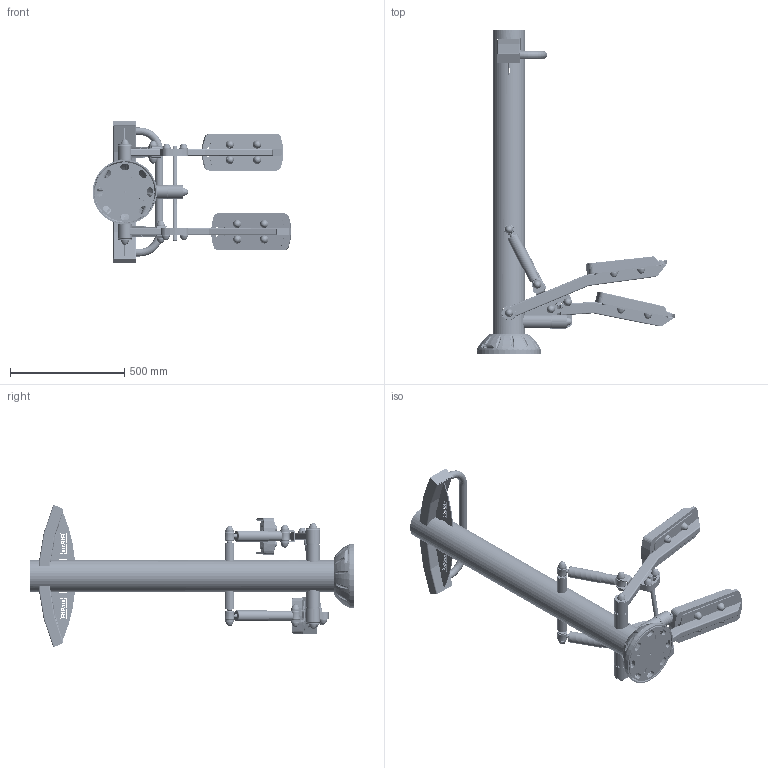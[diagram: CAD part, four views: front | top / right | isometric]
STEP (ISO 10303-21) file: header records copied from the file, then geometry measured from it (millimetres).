
FILE_DESCRIPTION (( 'STEP AP214' ), '1' );
FILE_NAME ('CT0112 - STEPPER SIMPLE ASS V1.3.STEP', '2016-10-03T21:03:44', ( '' ), ( '' ), 'SwSTEP 2.0', 'SolidWorks 2014', '' );
FILE_SCHEMA (( 'AUTOMOTIVE_DESIGN' ));
Length unit declared in the file: millimetre
Products named in the file (52): SCH1810 - Chapeau 66x26 pour tube 50x30 coupe à 45°; SR0416 - Rondelle plate petite M10 A2 ext 22mm; TROSM-42-285 - Tube D.42,4x2,9 L=285 V1.0; SBA1601 - Bague 6204 L60 V1.0; TREBRP-CT0112 - Tube bras respose pied Stepper V1.1; SR0427 - Rondelle plastique bouchon bague D60; SCH1806.A - Chapeau D135 V1.0; SA1448 - Axe Inox D.14mm L86,3mm V1.0; SC0304 - CACHE PLATINE ASS V4.0; TROCGUI-CT0112 - Tube guidon Stepper V1.0; SR0436 - Rondelle plate petite M10 A2 ext 36mm; SB0112 - Vis Torx teton central M8x20_M8x20; SRR0816 - Roulement  6204 47-20-14; SRP0206 - REPOSE PIED ASS V4.0_Capuchon Ｑ 5; SCH1807 - Chapeau 96x46 V1.0; SR0437 - Rondelle plate petite M14 A2 ext 36mm; SC0304 - Demi cache platine D140 V4.0; PU-TDRFIT219 - Tole renfort Fitpark L219 H106 V1.0; BATI-CT0112 - BATI STEPPER ASS V1.1; SC0306C - Petit capuchon en nylon 36 mm; PU-TRETRAV618 - Tube rectangulaire cintré R750 100x50x3 L618 V1.0_Trous D.33,7 non traversant 2; SAM2202 - Amortisseur stepper V2_Interm‚diaire; TOLGOUS110x40 - Gousset 110x40 廧.6 V1.0; SF1100 - Ecrou frein M8 A2; PU-TROCB1400SS - Colonne base D.139,7x3 Ht1400 Stepper Simple V1.0; SC0306B - Base pour capuchon en nylon 36mm; PLATINE BASE ASS V2.0; SAM2202 - Amortisseur stepper V2_Sorti; SA1418.A - Axe manivelle D.20 L134,4 V1.1; PU-TOLGOPL - Gousset platine V2.0; PATIN-C0601 - PATIN STEPPER V1.0; SR0404 - Rondelle plate Moyenne M8 A2; PU-TOLPLAT - Platine base V1.0; SR0426 - Rondelle plate petite M10 A2 ext 18mm; TROSM-60-130 - Tube D.60,3x2,9 L=130 V1.0; SRP0206 - Repose pied V3.1; BRASD-CT0112 - BRAS REPOSE PIED DROIT STEPPER ASS V1.6; CT0112 - STEPPER SIMPLE ASS V1.3; SB0115 - Vis Torx teton central M10x40; SA1427.A - Axe acier D.25 L420 V2.0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
Assembly tree (145 placements, depth 4):
  CT0112 - STEPPER SIMPLE ASS V1.3
    BATI-CT0112 - BATI STEPPER ASS V1.1
      PLATINE BASE ASS V2.0
        PU-TOLPLAT - Platine base V1.0
        PU-TOLGOPL - Gousset platine V2.0  x4
      PU-TROCB1400SS - Colonne base D.139,7x3 Ht1400 Stepper Simple V1.0
      PU-TRETRAV618 - Tube rectangulaire cintré R750 100x50x3 L618 V1.0_Trous D.33,7 non traversant 2
      PU-TDRFIT219 - Tole renfort Fitpark L219 H106 V1.0  x2
      SCH1807 - Chapeau 96x46 V1.0  x2
      TROCGUI-CT0112 - Tube guidon Stepper V1.0
      SCH1806.A - Chapeau D135 V1.0
      TROSM-42-285 - Tube D.42,4x2,9 L=285 V1.0
      TROSM-60-274 - Tube D.60,3x2,9 L=274 V1.0
      PU-TOLROND60-20 - Rondelle pour tube D.60 percée d.20 V1.0_V‚lo elliptique  x4
      PU-TOLROND42-20 - Rondelle pour tube D.42 percée d.20 V1.0_V‚lo elliptique  x2
      SA1426 - Axe acier D.25 L448 V1.0_V俵o elliptique
      SA1427.A - Axe acier D.25 L420 V2.0
      TROSM-60-130 - Tube D.60,3x2,9 L=130 V1.0
      SA1418.A - Axe manivelle D.20 L134,4 V1.1
      TOLGOUS110x40 - Gousset 110x40 廧.6 V1.0
    SC0304 - CACHE PLATINE ASS V4.0
      SC0304 - Demi cache platine D140 V4.0
      SB0112 - Vis Torx teton central M8x20_M8x20  x2
    BRASG-CT0112 - BRAS REPOSE PIED GAUCHE STEPPER ASS V1.6
      TREBRP-CT0112 - Tube bras respose pied Stepper V1.1
      SBA1601 - Bague 6204 L60 V1.0
      SCH1810 - Chapeau 66x26 pour tube 50x30 coupe à 45°
      PU-TROREPIED - Demi support repose pied  x2
      TOLSUPAT-CT0112 - Support patin Stepper V1.0
      SCHP2004 - Chape pliee 40 廧 5 V1.0
    BRASD-CT0112 - BRAS REPOSE PIED DROIT STEPPER ASS V1.6
      TREBRP-CT0112 - Tube bras respose pied Stepper V1.1
      SBA1601 - Bague 6204 L60 V1.0
      SCH1810 - Chapeau 66x26 pour tube 50x30 coupe à 45°
      PU-TROREPIED - Demi support repose pied  x2
      TOLSUPAT-CT0112 - Support patin Stepper V1.0
      SCHP2004 - Chape pliee 40 廧 5 V1.0
    SRP0206 - REPOSE PIED ASS V4.0_Capuchon Ｑ 5  x2
      SRP0206 - Repose pied V3.1
      SR0404 - Rondelle plate Moyenne M8 A2
      SC0306B - Base pour capuchon en nylon 36mm
      SF1100 - Ecrou frein M8 A2
      SC0306C - Petit capuchon en nylon 36 mm
    SRR0816 - Roulement  6204 47-20-14  x6
    SR0427 - Rondelle plastique bouchon bague D60  x6
    SC0306B - Base pour capuchon en nylon 36mm  x9
    SR0416 - Rondelle plate petite M10 A2 ext 22mm  x9
    SF1101 - Ecrou frein M10 A2  x9
    SC0306C - Petit capuchon en nylon 36 mm  x9
    BALAN-CT0112 - BALANCIER STEPPER ASS V1.0
      SA1428.B - Axe acier D.20 L420 V2.0
      SBA1601 - Bague 6204 L60 V1.0
    PATIN-C0601 - PATIN STEPPER V1.0  x2
      SRP0208 - Patin Stepper V2.0
      SB0115 - Vis Torx teton central M10x40
      SC0306B - Base pour capuchon en nylon 36mm
      SR0416 - Rondelle plate petite M10 A2 ext 22mm
      SF1101 - Ecrou frein M10 A2
      SC0306C - Petit capuchon en nylon 36 mm
      SR0426 - Rondelle plate petite M10 A2 ext 18mm
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Bounding box: 867.53 x 1418 x 621.97 mm (x, y, z)
Volume: 9560533.3 mm3; surface area: 4008001.7 mm2
Topology: 190 solids, 206 shells, 4207 faces, 9575 edges, 6083 vertices
Faces by surface type: plane 1619, cylinder 891, cone 621, bspline 616, torus 370, sphere 90
Full cylindrical faces by diameter (mm): 1.8 x2, 2.64 x4, 5 x8, 6.647 x18, 6.95 x2, 8 x18, 8.2 x8, 8.3 x4, 8.376 x26, 8.4 x8, 8.75 x16, 9.3 x2, 10 x35, 10.5 x27, 10.8 x26, 11 x8, 13 x8, 14 x8, 14.3 x4, 14.5 x2, 16 x2, 17 x13, 18 x21, 20 x12, 20.2 x12, 22 x34, 25 x2, 26 x21, 26.1 x12, 27.052 x12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
Entity records: 135600 total; most frequent: CARTESIAN_POINT 94633, ORIENTED_EDGE 7288, DIRECTION 6916, EDGE_CURVE 3644, AXIS2_PLACEMENT_3D 2775, VERTEX_POINT 2534, EDGE_LOOP 2466, FACE_OUTER_BOUND 2050
